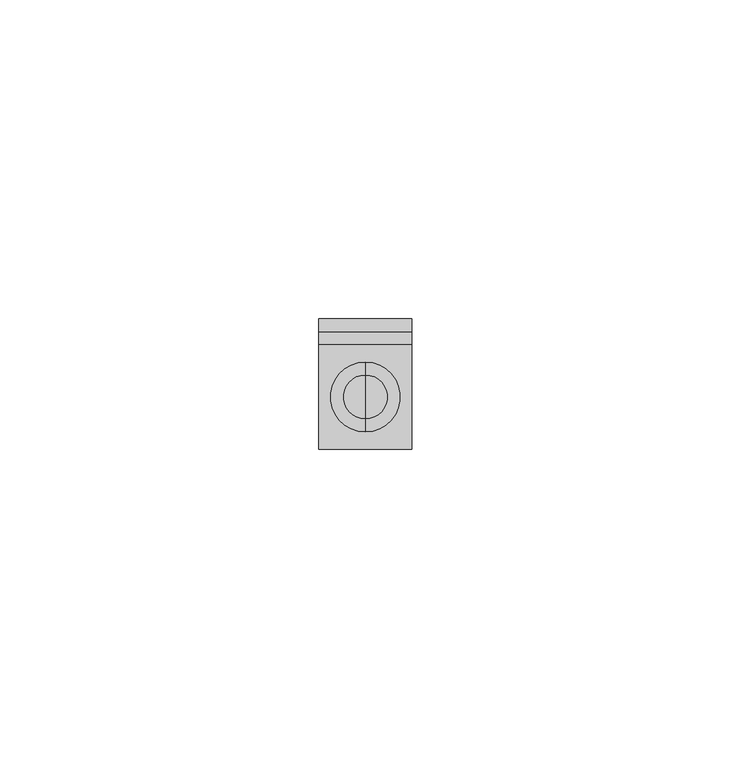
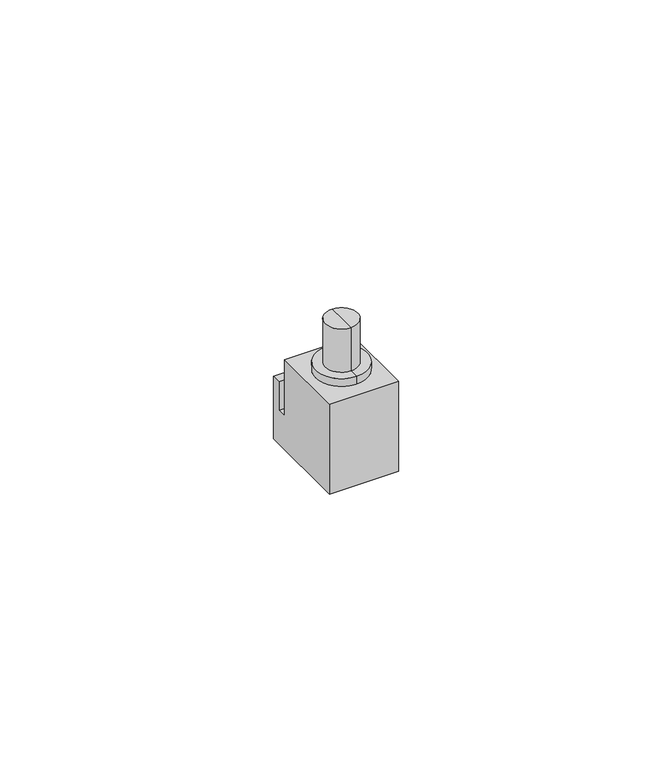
"""IFC4 building model written with IfcOpenShell, lengths in millimetres: electric appliance geometry, Data_Device-Network-Leviton-QuickPort-Adapter-Fiber : ST Multimode."""

from ifc_helpers import new_model, si_unit, frame, origin, place, context, project, spatial, polyline, circle_curve, outline, extrude, source, transform, mapped, element, save
from ifc_brep_helpers import plane_surface, cylinder_surface, advanced_brep


def electric_appliance_df73d78d(model_context):
    return source(origin(), model_context, "Body", "SolidModel", [
        extrude(outline(polyline([(0.0, 0.0254), (16.383, 0.0254), (16.383, -12.446), (18.415, -12.446), (18.415, -6.096), (20.447, -6.096), (20.447, -20.066), (0.0, -20.066), (0.0, 0.0254)])), frame((-7.3025, 0.0, 0.0), z_axis=(1.0, 0.0, 0.0), x_axis=(0.0, 1.0, 0.0)), (0.0, 0.0, 1.0), 14.605),
        advanced_brep(
        [(0.0, 11.6205, 2.0574), (0.0, 4.7625, 2.0574), (0.0, 4.7625, 11.684), (0.0, 11.6205, 11.684), (0.0, 13.6525, 2.0574), (0.0, 2.7305, 2.0574), (0.0, 13.6525, 0.0254), (0.0, 2.7305, 0.0254), (0.0, 8.1915, 0.0254), (0.0, 8.1915, 11.684)],
        [
            (0, 1, circle_curve(frame((0.0, 8.1915, 2.0574), z_axis=(0.0, 0.0, 1.0), x_axis=(0.0, -1.0, 0.0)), 3.429)),
            (1, 2),
            (2, 3, circle_curve(frame((0.0, 8.1915, 11.684), z_axis=(0.0, 0.0, -1.0), x_axis=(0.0, -1.0, 0.0)), 3.429)),
            (3, 0),
            (1, 0, circle_curve(frame((0.0, 8.1915, 2.0574), z_axis=(0.0, 0.0, 1.0), x_axis=(0.0, -1.0, 0.0)), 3.429)),
            (3, 2, circle_curve(frame((0.0, 8.1915, 11.684), z_axis=(0.0, 0.0, -1.0), x_axis=(0.0, -1.0, 0.0)), 3.429)),
            (4, 5, circle_curve(frame((0.0, 8.1915, 2.0574), z_axis=(0.0, 0.0, 1.0), x_axis=(0.0, -1.0, 0.0)), 5.461)),
            (5, 1),
            (0, 4),
            (5, 4, circle_curve(frame((0.0, 8.1915, 2.0574), z_axis=(0.0, 0.0, 1.0), x_axis=(0.0, -1.0, 0.0)), 5.461)),
            (6, 7, circle_curve(frame((0.0, 8.1915, 0.0254), z_axis=(0.0, 0.0, 1.0), x_axis=(0.0, -1.0, 0.0)), 5.461)),
            (7, 5),
            (4, 6),
            (7, 6, circle_curve(frame((0.0, 8.1915, 0.0254), z_axis=(0.0, 0.0, 1.0), x_axis=(0.0, -1.0, 0.0)), 5.461)),
            (8, 7),
            (6, 8),
            (2, 9),
            (9, 3),
        ],
        [
            cylinder_surface(frame((0.0, 8.1915, -293.624), z_axis=(0.0, 0.0, -1.0), x_axis=(0.0, -1.0, 0.0)), 3.429),
            plane_surface(frame((0.0, 8.1915, 2.0574), z_axis=(0.0, 0.0, 1.0), x_axis=(0.0, -1.0, 0.0))),
            cylinder_surface(frame((0.0, 8.1915, -293.624), z_axis=(0.0, 0.0, -1.0), x_axis=(0.0, -1.0, 0.0)), 5.461),
            plane_surface(frame((0.0, 8.1915, 0.0254), z_axis=(0.0, 0.0, -1.0), x_axis=(0.0, -1.0, 0.0))),
            plane_surface(frame((0.0, 8.1915, 11.684), z_axis=(0.0, 0.0, 1.0), x_axis=(0.0, -1.0, 0.0))),
        ],
        [
            (0, [[1, 2, 3, 4]]),
            (0, [[5, -4, 6, -2]]),
            (1, [[7, 8, -1, 9]]),
            (1, [[10, -9, -5, -8]]),
            (2, [[11, 12, -7, 13]]),
            (2, [[14, -13, -10, -12]]),
            (3, [[15, -11, 16]]),
            (3, [[-16, -14, -15]]),
            (4, [[-3, 17, 18]]),
            (4, [[-6, -18, -17]]),
        ],
    ),
    ])


if __name__ == "__main__":
    model = new_model("IFC4")
    model_context = context("Model", 3, world=origin())
    ifc_project = project(units=[si_unit("LENGTHUNIT", "METRE", prefix="MILLI")], contexts=[model_context])
    site = spatial("IfcSite", under=ifc_project)
    building = spatial("IfcBuilding", under=site)
    placement = place(None, origin())
    electric_appliance_shape = electric_appliance_df73d78d(model_context)
    element("IfcElectricAppliance", 1, ObjectType="Data_Device-Network-Leviton-QuickPort-Adapter-Fiber : ST Multimode", at=placement, inside=building, context=model_context, shape_type="MappedRepresentation", body=[
        mapped(electric_appliance_shape, transform((0.0, 0.0, 0.0), x_axis=(1.0, 0.0, 0.0), y_axis=(0.0, 1.0, 0.0), z_axis=(0.0, 0.0, 1.0))),
    ])
    save(model, "model.ifc")
